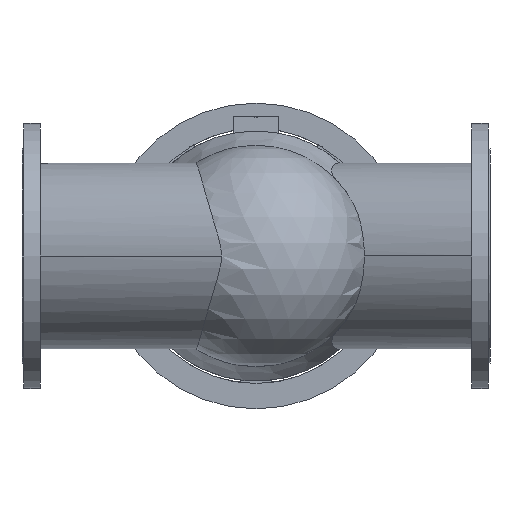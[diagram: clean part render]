
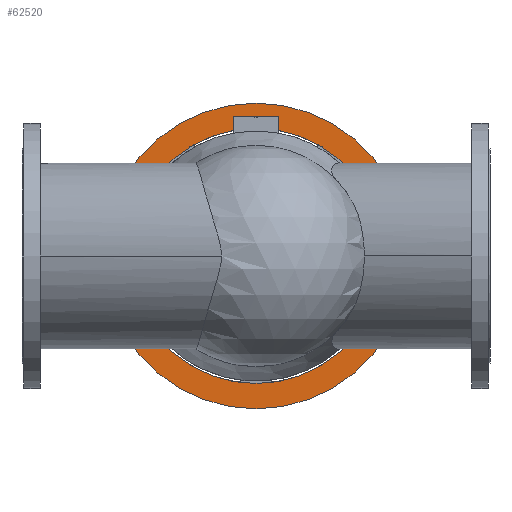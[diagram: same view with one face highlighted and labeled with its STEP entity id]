
A CAD part, front view. The second image highlights one B-rep face of the part: STEP entity #62520.
In plain terms, the highlighted planar face has unit normal (0, -1, 0).
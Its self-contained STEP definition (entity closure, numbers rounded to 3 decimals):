
#61030=CARTESIAN_POINT('',(223.,1051.3,0.));
#61040=VERTEX_POINT('',#61030);
#62130=CARTESIAN_POINT('',(757.,1051.3,0.));
#62140=VERTEX_POINT('',#62130);
#62170=CARTESIAN_POINT('',(490.,1051.3,0.));
#62180=DIRECTION('',(0.,1.,0.));
#62190=DIRECTION('',(1.,0.,0.));
#62200=AXIS2_PLACEMENT_3D('',#62170,#62180,#62190);
#62210=CIRCLE('',#62200,267.);
#62220=EDGE_CURVE('',#62140,#61040,#62210,.T.);
#62270=CARTESIAN_POINT('',(783.5,1051.3,0.));
#62280=DIRECTION('',(0.,-1.,0.));
#62290=DIRECTION('',(-1.,0.,0.));
#62300=AXIS2_PLACEMENT_3D('',#62270,#62280,#62290);
#62310=PLANE('',#62300);
#62320=CARTESIAN_POINT('',(490.,1051.3,0.));
#62330=DIRECTION('',(0.,1.,0.));
#62340=DIRECTION('',(1.,0.,0.));
#62350=AXIS2_PLACEMENT_3D('',#62320,#62330,#62340);
#62360=CIRCLE('',#62350,320.);
#62370=CARTESIAN_POINT('',(170.,1051.3,0.));
#62380=VERTEX_POINT('',#62370);
#62390=CARTESIAN_POINT('',(810.,1051.3,0.));
#62400=VERTEX_POINT('',#62390);
#62410=EDGE_CURVE('',#62380,#62400,#62360,.T.);
#62420=ORIENTED_EDGE('',*,*,#62410,.F.);
#62430=EDGE_CURVE('',#62400,#62380,#62360,.T.);
#62440=ORIENTED_EDGE('',*,*,#62430,.F.);
#62450=EDGE_LOOP('',(#62440,#62420));
#62460=FACE_OUTER_BOUND('',#62450,.T.);
#62470=EDGE_CURVE('',#61040,#62140,#62210,.T.);
#62480=ORIENTED_EDGE('',*,*,#62470,.T.);
#62490=ORIENTED_EDGE('',*,*,#62220,.T.);
#62500=EDGE_LOOP('',(#62490,#62480));
#62510=FACE_BOUND('',#62500,.T.);
#62520=ADVANCED_FACE('',(#62460,#62510),#62310,.T.);
